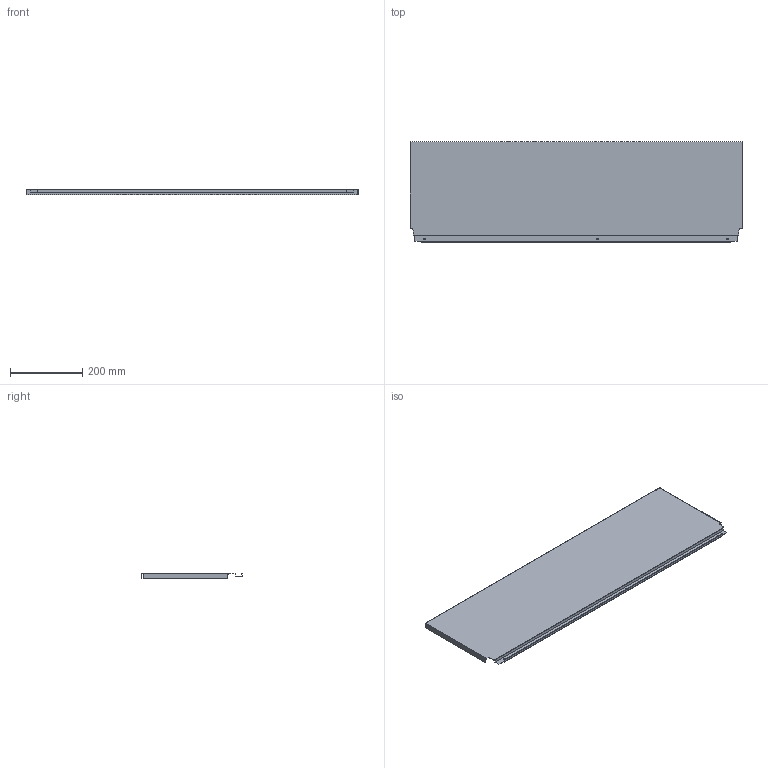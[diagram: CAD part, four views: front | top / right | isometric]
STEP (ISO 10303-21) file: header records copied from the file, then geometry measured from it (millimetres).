
FILE_DESCRIPTION (( 'STEP AP214' ), '1' );
FILE_NAME ('_DWD_XP Stahlrückwand_H278_KAB1000_S16.step', '2010-07-08T13:03:51', ( 'grass' ), ( '' ), 'SwSTEP 2.0', 'SolidWorks 2010', '' );
FILE_SCHEMA (( 'AUTOMOTIVE_DESIGN' ));
Length unit declared in the file: millimetre
Products named in the file (1): _DWD_XP Stahlrückwand_H278_KAB1000_S16
Bounding box: 917 x 278.57 x 16 mm (x, y, z)
Volume: 253972.9 mm3; surface area: 579367.6 mm2
Topology: 1 solids, 1 shells, 46 faces, 132 edges, 88 vertices
Faces by surface type: plane 40, cylinder 6
Entity records: 1534 total; most frequent: CARTESIAN_POINT 267, ORIENTED_EDGE 264, DIRECTION 238, EDGE_CURVE 132, VECTOR 120, LINE 120, VERTEX_POINT 88, AXIS2_PLACEMENT_3D 59
